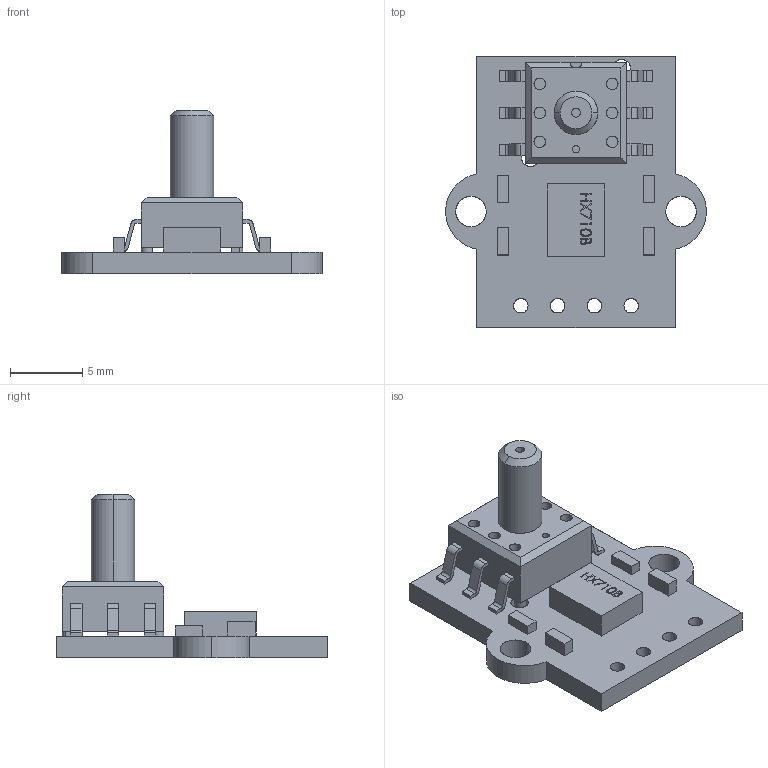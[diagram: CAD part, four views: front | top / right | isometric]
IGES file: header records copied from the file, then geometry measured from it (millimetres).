
Start section: SolidWorks IGES file using analytic representation for surfaces
Global section: file name: C:\Temp_\Arduino\_projekt_hladinomer_nadrz\v2_\pressure_sensor_assy_HX710B.IGS; native system: SolidWorks 2023; preprocessor: SolidWorks 2023; author: zilin; date: 230719.230107; units: millimetre
Bounding box: 18 x 18.7 x 11.3 mm (x, y, z)
Surface area: 1047.3 mm2 (no closed solid volume)
Topology: 0 solids, 0 shells, 402 faces, 3918 edges, 3918 vertices
Faces by surface type: bspline 335, revolution 67
